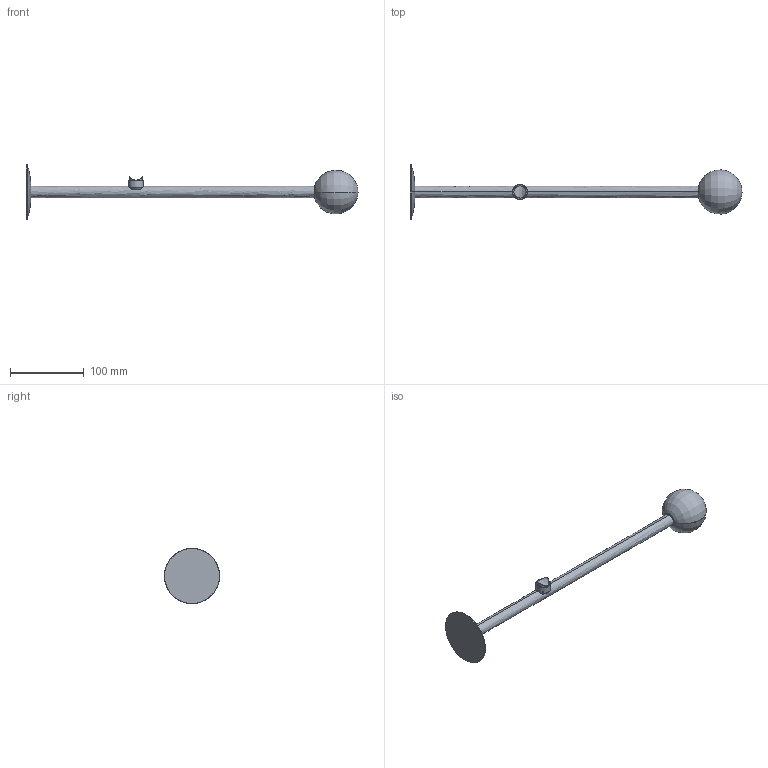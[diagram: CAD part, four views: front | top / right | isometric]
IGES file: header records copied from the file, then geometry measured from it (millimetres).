
Start section: SolidWorks IGES file using analytic representation for surfaces
Global section: file name: C:\Users\Joandita\Dropbox\Rakumba Marketing - Design\PRODUCT\TYPOGRAPHY\VELA\PRODUCT PHOTOGRAPHY\WORKING FILES\RENDERS\CAD\Lightweight\Lights\Eclipse 75.IGS; native system: SolidWorks 2017; preprocessor: SolidWorks 2017; author: Joandita; date: 210916.115609; units: millimetre
Bounding box: 451.13 x 75 x 75 mm (x, y, z)
Surface area: 66579 mm2 (no closed solid volume)
Topology: 0 solids, 0 shells, 77 faces, 1474 edges, 1469 vertices
Faces by surface type: revolution 43, bspline 34
